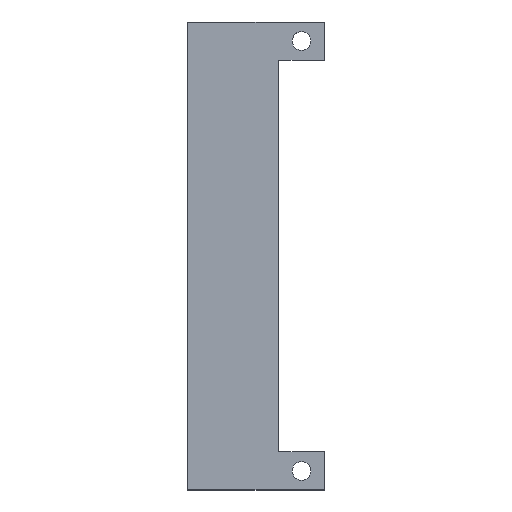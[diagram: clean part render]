
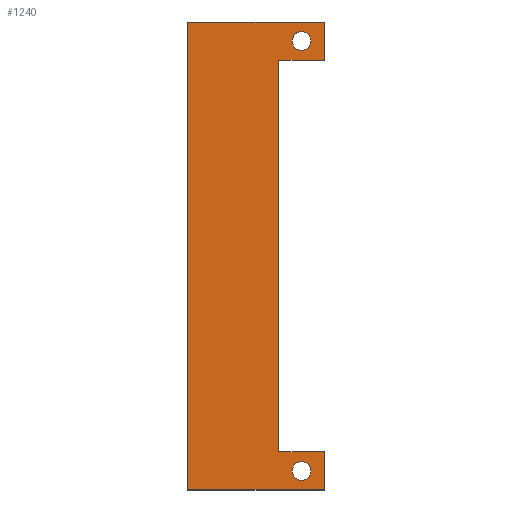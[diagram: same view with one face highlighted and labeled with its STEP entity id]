
A CAD part, top view. The second image highlights one B-rep face of the part: STEP entity #1240.
In plain terms, the highlighted free-form (B-spline) face has degree [1, 1] with [2, 2] control points.
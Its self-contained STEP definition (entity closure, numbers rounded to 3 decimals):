
#10 = CARTESIAN_POINT ('', (30., 8.35, 3.));
#20 = VERTEX_POINT ('', #10);
#30 = CARTESIAN_POINT ('', (30., 0., 3.));
#40 = VERTEX_POINT ('', #30);
#50 = CARTESIAN_POINT ('', (30., 8.35, 3.));
#60 = CARTESIAN_POINT ('', (30., 0., 3.));
#70 = B_SPLINE_CURVE_WITH_KNOTS ('', 1, (#50, #60), .UNSPECIFIED., .F., .U., (2, 2), (144.2, 152.55), .UNSPECIFIED.);
#80 = EDGE_CURVE ('', #20, #40, #70, .T.);
#370 = ORIENTED_EDGE ('', *, *, #80, .F.);
#380 = CARTESIAN_POINT ('', (20., 8.35, 3.));
#390 = VERTEX_POINT ('', #380);
#400 = CARTESIAN_POINT ('', (20., 8.35, 3.));
#410 = CARTESIAN_POINT ('', (30., 8.35, 3.));
#420 = B_SPLINE_CURVE_WITH_KNOTS ('', 1, (#400, #410), .UNSPECIFIED., .F., .U., (2, 2), (134.2, 144.2), .UNSPECIFIED.);
#430 = EDGE_CURVE ('', #390, #20, #420, .T.);
#440 = ORIENTED_EDGE ('', *, *, #430, .F.);
#450 = CARTESIAN_POINT ('', (20., 94.2, 3.));
#460 = VERTEX_POINT ('', #450);
#470 = CARTESIAN_POINT ('', (20., 94.2, 3.));
#480 = CARTESIAN_POINT ('', (20., 8.35, 3.));
#490 = B_SPLINE_CURVE_WITH_KNOTS ('', 1, (#470, #480), .UNSPECIFIED., .F., .U., (2, 2), (48.35, 134.2), .UNSPECIFIED.);
#500 = EDGE_CURVE ('', #460, #390, #490, .T.);
#510 = ORIENTED_EDGE ('', *, *, #500, .F.);
#520 = CARTESIAN_POINT ('', (30., 94.2, 3.));
#530 = VERTEX_POINT ('', #520);
#540 = CARTESIAN_POINT ('', (30., 94.2, 3.));
#550 = CARTESIAN_POINT ('', (20., 94.2, 3.));
#560 = B_SPLINE_CURVE_WITH_KNOTS ('', 1, (#540, #550), .UNSPECIFIED., .F., .U., (2, 2), (38.35, 48.35), .UNSPECIFIED.);
#570 = EDGE_CURVE ('', #530, #460, #560, .T.);
#580 = ORIENTED_EDGE ('', *, *, #570, .F.);
#590 = CARTESIAN_POINT ('', (30., 102.55, 3.));
#600 = VERTEX_POINT ('', #590);
#610 = CARTESIAN_POINT ('', (30., 102.55, 3.));
#620 = CARTESIAN_POINT ('', (30., 94.2, 3.));
#630 = B_SPLINE_CURVE_WITH_KNOTS ('', 1, (#610, #620), .UNSPECIFIED., .F., .U., (2, 2), (30., 38.35), .UNSPECIFIED.);
#640 = EDGE_CURVE ('', #600, #530, #630, .T.);
#650 = ORIENTED_EDGE ('', *, *, #640, .F.);
#660 = CARTESIAN_POINT ('', (0., 102.55, 3.));
#670 = VERTEX_POINT ('', #660);
#680 = CARTESIAN_POINT ('', (0., 102.55, 3.));
#690 = CARTESIAN_POINT ('', (30., 102.55, 3.));
#700 = B_SPLINE_CURVE_WITH_KNOTS ('', 1, (#680, #690), .UNSPECIFIED., .F., .U., (2, 2), (0., 30.), .UNSPECIFIED.);
#710 = EDGE_CURVE ('', #670, #600, #700, .T.);
#720 = ORIENTED_EDGE ('', *, *, #710, .F.);
#730 = CARTESIAN_POINT ('', (0., 0., 3.));
#740 = VERTEX_POINT ('', #730);
#750 = CARTESIAN_POINT ('', (0., 0., 3.));
#760 = CARTESIAN_POINT ('', (0., 102.55, 3.));
#770 = B_SPLINE_CURVE_WITH_KNOTS ('', 1, (#750, #760), .UNSPECIFIED., .F., .U., (2, 2), (182.55, 285.1), .UNSPECIFIED.);
#780 = EDGE_CURVE ('', #740, #670, #770, .T.);
#790 = ORIENTED_EDGE ('', *, *, #780, .F.);
#800 = CARTESIAN_POINT ('', (30., 0., 3.));
#810 = CARTESIAN_POINT ('', (0., 0., 3.));
#820 = B_SPLINE_CURVE_WITH_KNOTS ('', 1, (#800, #810), .UNSPECIFIED., .F., .U., (2, 2), (152.55, 182.55), .UNSPECIFIED.);
#830 = EDGE_CURVE ('', #40, #740, #820, .T.);
#840 = ORIENTED_EDGE ('', *, *, #830, .F.);
#850 = EDGE_LOOP ('', (#370, #440, #510, #580, #650, #720, #790, #840));
#860 = FACE_OUTER_BOUND ('', #850, .T.);
#870 = CARTESIAN_POINT ('', (27.05, 98.375, 3.));
#880 = VERTEX_POINT ('', #870);
#890 = CARTESIAN_POINT ('', (27.05, 98.375, 3.));
#900 = CARTESIAN_POINT ('', (27.05, 100.425, 3.));
#910 = CARTESIAN_POINT ('', (25., 100.425, 3.));
#920 = CARTESIAN_POINT ('', (22.95, 100.425, 3.));
#930 = CARTESIAN_POINT ('', (22.95, 98.375, 3.));
#940 = CARTESIAN_POINT ('', (22.95, 96.325, 3.));
#950 = CARTESIAN_POINT ('', (25., 96.325, 3.));
#960 = CARTESIAN_POINT ('', (27.05, 96.325, 3.));
#970 = CARTESIAN_POINT ('', (27.05, 98.375, 3.));
#980 = (
   BOUNDED_CURVE ()
   B_SPLINE_CURVE (2, (#890, #900, #910, #920, #930, #940, #950, #960, #970), .UNSPECIFIED., .T., .U.)
   B_SPLINE_CURVE_WITH_KNOTS ((3, 2, 2, 2, 3), (0., 0.25, 0.5, 0.75, 1.), .UNSPECIFIED.)
   CURVE ()
   GEOMETRIC_REPRESENTATION_ITEM ()
   RATIONAL_B_SPLINE_CURVE ((1., 0.707, 1., 0.707, 1., 0.707, 1., 0.707, 1.))
   REPRESENTATION_ITEM ('')
);
#990 = EDGE_CURVE ('', #880, #880, #980, .T.);
#1000 = ORIENTED_EDGE ('', *, *, #990, .F.);
#1010 = EDGE_LOOP ('', (#1000));
#1020 = FACE_BOUND ('', #1010, .T.);
#1030 = CARTESIAN_POINT ('', (27.05, 4.175, 3.));
#1040 = VERTEX_POINT ('', #1030);
#1050 = CARTESIAN_POINT ('', (27.05, 4.175, 3.));
#1060 = CARTESIAN_POINT ('', (27.05, 2.125, 3.));
#1070 = CARTESIAN_POINT ('', (25., 2.125, 3.));
#1080 = CARTESIAN_POINT ('', (22.95, 2.125, 3.));
#1090 = CARTESIAN_POINT ('', (22.95, 4.175, 3.));
#1100 = CARTESIAN_POINT ('', (22.95, 6.225, 3.));
#1110 = CARTESIAN_POINT ('', (25., 6.225, 3.));
#1120 = CARTESIAN_POINT ('', (27.05, 6.225, 3.));
#1130 = CARTESIAN_POINT ('', (27.05, 4.175, 3.));
#1140 = (
   BOUNDED_CURVE ()
   B_SPLINE_CURVE (2, (#1050, #1060, #1070, #1080, #1090, #1100, #1110, #1120, #1130), .UNSPECIFIED., .T., .U.)
   B_SPLINE_CURVE_WITH_KNOTS ((3, 2, 2, 2, 3), (0., 0.25, 0.5, 0.75, 1.), .UNSPECIFIED.)
   CURVE ()
   GEOMETRIC_REPRESENTATION_ITEM ()
   RATIONAL_B_SPLINE_CURVE ((1., 0.707, 1., 0.707, 1., 0.707, 1., 0.707, 1.))
   REPRESENTATION_ITEM ('')
);
#1150 = EDGE_CURVE ('', #1040, #1040, #1140, .T.);
#1160 = ORIENTED_EDGE ('', *, *, #1150, .T.);
#1170 = EDGE_LOOP ('', (#1160));
#1180 = FACE_BOUND ('', #1170, .T.);
#1190 = CARTESIAN_POINT ('', (-92.19, -60.915, 3.));
#1200 = CARTESIAN_POINT ('', (-92.19, 163.465, 3.));
#1210 = CARTESIAN_POINT ('', (132.19, -60.915, 3.));
#1220 = CARTESIAN_POINT ('', (132.19, 163.465, 3.));
#1230 = B_SPLINE_SURFACE_WITH_KNOTS ('', 1, 1, ((#1190, #1200), (#1210, #1220)), .UNSPECIFIED., .F., .F., .U., (2, 2), (2, 2), (0., 1.), (0., 1.), .UNSPECIFIED.);
#1240 = ADVANCED_FACE ('', (#860, #1020, #1180), #1230, .T.);
